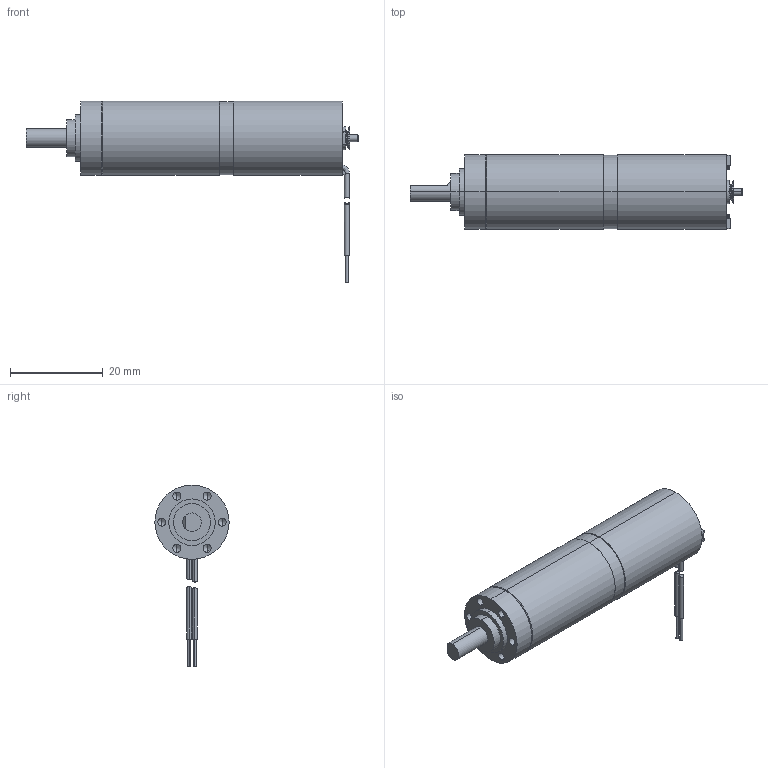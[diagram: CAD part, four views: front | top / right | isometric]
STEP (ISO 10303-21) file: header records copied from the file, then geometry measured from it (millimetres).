
FILE_DESCRIPTION (( 'STEP AP214' ), '1' );
FILE_NAME ('DCX16SG + GP16C-5 étages.STEP', '2014-10-15T13:28:49', ( '' ), ( '' ), 'SwSTEP 2.0', 'SolidWorks 2013', '' );
FILE_SCHEMA (( 'AUTOMOTIVE_DESIGN' ));
Length unit declared in the file: millimetre
Products named in the file (23): 2; 9; 1577440; 8; 7; 3; 19; 18; 17; 16; 14; 5; 4; 13; 12; 11; DCX16SG; 10; 6; GP16C - 5st; 15; 1; DCX16SG + GP16C-5 étages
Assembly tree (22 placements, depth 3):
  DCX16SG + GP16C-5 étages
    GP16C - 5st
    DCX16SG
      10
      11
      12
      13
      4
      5
      14
      16
      17
      18
      19
      3
      7
      8
      1577440
      9
      2
      1
      15
      6
Bounding box: 71.55 x 16 x 39.2 mm (x, y, z)
Volume: 8743.8 mm3; surface area: 6967.3 mm2
Topology: 21 solids, 21 shells, 1044 faces, 2605 edges, 1657 vertices
Faces by surface type: plane 525, cylinder 297, cone 152, bspline 70
Entity records: 44613 total; most frequent: CARTESIAN_POINT 7607, DIRECTION 5287, ORIENTED_EDGE 5176, EDGE_CURVE 2588, AXIS2_PLACEMENT_3D 1797, VECTOR 1693, LINE 1693, VERTEX_POINT 1657
